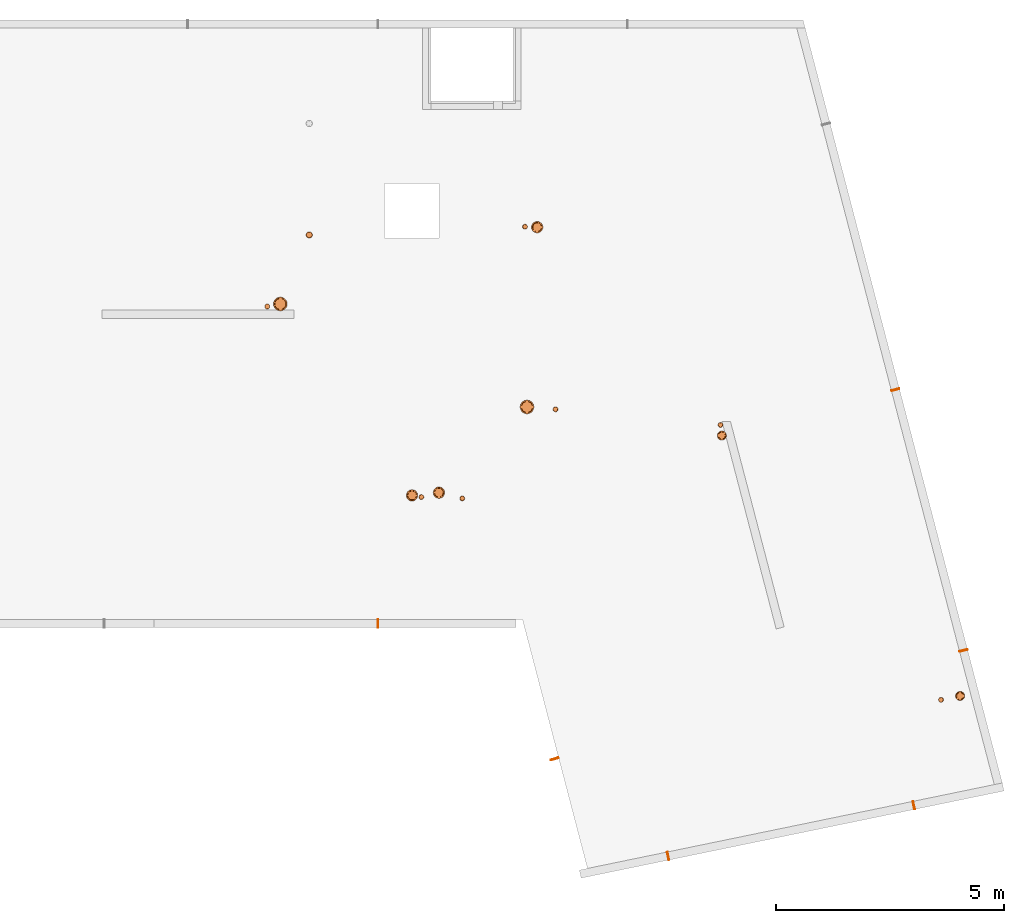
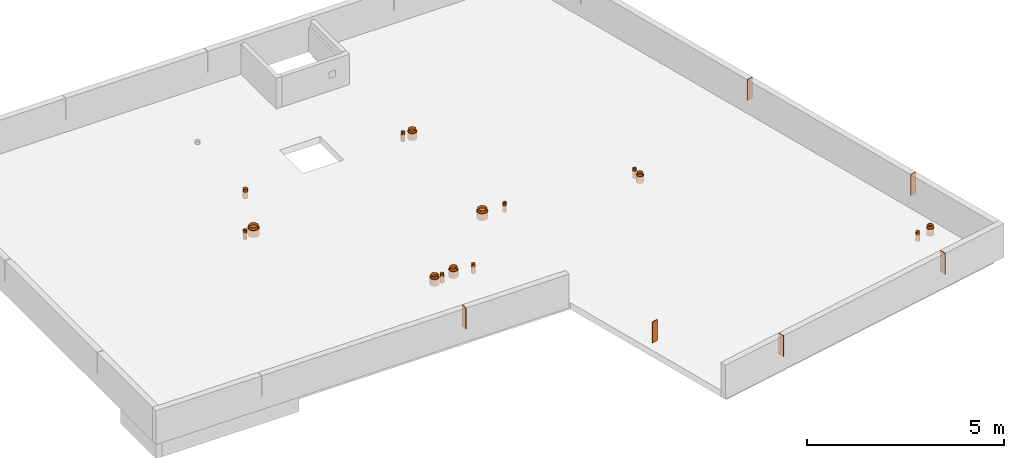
# One storey, part 11 of 12: 21 proxies.
"""IFC2X3 building model written with IfcOpenShell, lengths in centimetres."""

from ifc_helpers import new_model, entity, si_unit, converted_unit, derived_unit, direction, frame, frame_2d, origin, place, context, subcontext, project, spatial, rectangle, circle, hollow_circle, extrude, source, transform, mapped, material, type_object, type_shapes, element, save


model = new_model("IFC2X3")

# Units and contexts
model_context = context("Model", 3, precision=0.001, world=origin(), true_north=direction((6.12303176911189e-17, 1.0)))
body_context = subcontext(model_context, "Body", "Model", "MODEL_VIEW")
ifc_project = project(units=[si_unit("LENGTHUNIT", "METRE", prefix="CENTI"), si_unit("AREAUNIT", "SQUARE_METRE"), si_unit("VOLUMEUNIT", "CUBIC_METRE"), converted_unit("PLANEANGLEUNIT", "DEGREE", entity("IfcRatioMeasure", 0.0174532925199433), si_unit("PLANEANGLEUNIT", "RADIAN"), dimensions=[0, 0, 0, 0, 0, 0, 0]), si_unit("MASSUNIT", "GRAM", prefix="KILO"), derived_unit("MASSDENSITYUNIT", [(si_unit("MASSUNIT", "GRAM", prefix="KILO"), 1), (si_unit("LENGTHUNIT", "METRE"), -3)]), si_unit("TIMEUNIT", "SECOND"), si_unit("FREQUENCYUNIT", "HERTZ"), si_unit("THERMODYNAMICTEMPERATUREUNIT", "DEGREE_CELSIUS"), derived_unit("THERMALTRANSMITTANCEUNIT", [(si_unit("MASSUNIT", "GRAM", prefix="KILO"), 1), (si_unit("THERMODYNAMICTEMPERATUREUNIT", "KELVIN"), -1), (si_unit("TIMEUNIT", "SECOND"), -3)]), derived_unit("VOLUMETRICFLOWRATEUNIT", [(si_unit("LENGTHUNIT", "METRE"), 3), (si_unit("TIMEUNIT", "SECOND"), -1)]), si_unit("ELECTRICCURRENTUNIT", "AMPERE"), si_unit("ELECTRICVOLTAGEUNIT", "VOLT"), si_unit("POWERUNIT", "WATT"), si_unit("FORCEUNIT", "NEWTON"), si_unit("ILLUMINANCEUNIT", "LUX"), si_unit("LUMINOUSFLUXUNIT", "LUMEN"), si_unit("LUMINOUSINTENSITYUNIT", "CANDELA"), derived_unit("USERDEFINED", [(si_unit("MASSUNIT", "GRAM", prefix="KILO"), -1), (si_unit("LENGTHUNIT", "METRE"), -2), (si_unit("TIMEUNIT", "SECOND"), 3), (si_unit("LUMINOUSFLUXUNIT", "LUMEN"), 1)]), derived_unit("LINEARVELOCITYUNIT", [(si_unit("LENGTHUNIT", "METRE"), 1), (si_unit("TIMEUNIT", "SECOND"), -1)]), si_unit("PRESSUREUNIT", "PASCAL"), derived_unit("USERDEFINED", [(si_unit("LENGTHUNIT", "METRE"), -2), (si_unit("MASSUNIT", "GRAM", prefix="KILO"), 1), (si_unit("TIMEUNIT", "SECOND"), -2)])], contexts=[model_context])

# Site, building, storey
site_placement = place(None, origin())
site = spatial("IfcSite", under=ifc_project, at=site_placement, Name="Default", CompositionType="ELEMENT")
building_placement = place(site_placement, origin())
building = spatial("IfcBuilding", under=site, at=building_placement, Name="CAGE 03", CompositionType="ELEMENT")
storey_placement = place(building_placement, frame((0.0, 0.0, 1690.0)))
storey = spatial("IfcBuildingStorey", under=building, at=storey_placement, Name="R+6", CompositionType="ELEMENT", Elevation=1690.0)

# Proxies
ifc_material_1 = material(Name="BBGO_Résa")
building_element_proxy_type_1 = type_object("IfcBuildingElementProxyType", Name="J.F.", PredefinedType="NOTDEFINED", material=ifc_material_1)
shared_shape_1 = source(origin(), body_context, "Body", "SweptSolid", [
    extrude(rectangle(XDim=18.0, YDim=2.00000000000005, at=frame_2d((-1.78701498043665e-12, 1.87627691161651e-14), x_axis=(1.0, 0.0))), frame((11328.7595501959, 4318.08999948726, 1730.0), z_axis=(0.0, 0.0, 1.0), x_axis=(0.967549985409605, 0.252679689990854, 0.0)), (0.0, 0.0, 1.0), 64.9999999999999),
])
type_shapes(building_element_proxy_type_1, [shared_shape_1])
proxy_1_placement = place(storey_placement, frame((0.0, 0.0, -1690.0)))
element("IfcBuildingElementProxy", 1, at=proxy_1_placement, inside=storey, type_object=building_element_proxy_type_1, material=ifc_material_1, Name="BBGO-Résa rect et circ:J.F.", ObjectType="J.F.", context=body_context, shape_type="MappedRepresentation", body=[
    mapped(shared_shape_1, transform((0.0, 0.0, 0.0), scale=1.0)),
])
building_element_proxy_type_2 = type_object("IfcBuildingElementProxyType", Name="J.F.", PredefinedType="NOTDEFINED", material=ifc_material_1)
shared_shape_2 = source(origin(), body_context, "Body", "SweptSolid", [
    extrude(rectangle(XDim=18.0000000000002, YDim=2.00000000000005, at=frame_2d((1.62181379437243e-12, -6.47204512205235e-13), x_axis=(1.0, 0.0))), frame((11478.0932469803, 3746.26795811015, 1730.0), z_axis=(0.0, 0.0, 1.0), x_axis=(0.967549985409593, 0.252679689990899, 0.0)), (0.0, 0.0, 1.0), 64.9999999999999),
])
type_shapes(building_element_proxy_type_2, [shared_shape_2])
proxy_2_placement = place(storey_placement, frame((0.0, 0.0, -1690.0)))
element("IfcBuildingElementProxy", 2, at=proxy_2_placement, inside=storey, type_object=building_element_proxy_type_2, material=ifc_material_1, Name="BBGO-Résa rect et circ:J.F.", ObjectType="J.F.", context=body_context, shape_type="MappedRepresentation", body=[
    mapped(shared_shape_2, transform((0.0, 0.0, 0.0), scale=1.0)),
])
building_element_proxy_type_3 = type_object("IfcBuildingElementProxyType", Name="J.F.", PredefinedType="NOTDEFINED", material=ifc_material_1)
shared_shape_3 = source(origin(), body_context, "Body", "SweptSolid", [
    extrude(rectangle(XDim=18.0000000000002, YDim=1.99999999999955, at=frame_2d((-2.16715534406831e-13, 0.0), x_axis=(1.0, 0.0))), frame((10194.3658201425, 3805.66066607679, 1730.0), z_axis=(0.0, 0.0, 1.0), x_axis=(0.0, 1.0, 0.0)), (0.0, 0.0, 1.0), 64.9999999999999),
])
type_shapes(building_element_proxy_type_3, [shared_shape_3])
proxy_3_placement = place(storey_placement, frame((0.0, 0.0, -1690.0)))
element("IfcBuildingElementProxy", 3, at=proxy_3_placement, inside=storey, type_object=building_element_proxy_type_3, material=ifc_material_1, Name="BBGO-Résa rect et circ:J.F.", ObjectType="J.F.", context=body_context, shape_type="MappedRepresentation", body=[
    mapped(shared_shape_3, transform((0.0, 0.0, 0.0), scale=1.0)),
])
building_element_proxy_type_4 = type_object("IfcBuildingElementProxyType", Name="J.F.", PredefinedType="NOTDEFINED", material=ifc_material_1)
shared_shape_4 = source(origin(), body_context, "Body", "SweptSolid", [
    extrude(rectangle(XDim=18.0000000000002, YDim=2.00000000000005, at=frame_2d((5.41788836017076e-14, 2.09332551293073e-13), x_axis=(1.0, 0.0))), frame((10581.5750144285, 3508.52112069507, 1730.0), z_axis=(0.0, 0.0, 1.0), x_axis=(0.967549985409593, 0.252679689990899, 0.0)), (0.0, 0.0, 1.0), 64.9999999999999),
])
type_shapes(building_element_proxy_type_4, [shared_shape_4])
proxy_4_placement = place(storey_placement, frame((0.0, 0.0, -1690.0)))
element("IfcBuildingElementProxy", 4, at=proxy_4_placement, inside=storey, type_object=building_element_proxy_type_4, material=ifc_material_1, Name="BBGO-Résa rect et circ:J.F.", ObjectType="J.F.", context=body_context, shape_type="MappedRepresentation", body=[
    mapped(shared_shape_4, transform((0.0, 0.0, 0.0), scale=1.0)),
])
building_element_proxy_type_5 = type_object("IfcBuildingElementProxyType", Name="J.F.", PredefinedType="NOTDEFINED", material=ifc_material_1)
shared_shape_5 = source(origin(), body_context, "Body", "SweptSolid", [
    extrude(rectangle(XDim=18.0000000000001, YDim=1.9999999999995, at=frame_2d((-1.74971148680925e-13, -8.48487946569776e-13), x_axis=(1.0, 0.0))), frame((10830.4849742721, 3295.67811920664, 1730.0), z_axis=(0.0, 0.0, 1.0), x_axis=(-0.201861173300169, 0.979414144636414, 0.0)), (0.0, 0.0, 1.0), 64.9999999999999),
])
type_shapes(building_element_proxy_type_5, [shared_shape_5])
proxy_5_placement = place(storey_placement, frame((0.0, 0.0, -1690.0)))
element("IfcBuildingElementProxy", 5, at=proxy_5_placement, inside=storey, type_object=building_element_proxy_type_5, material=ifc_material_1, Name="BBGO-Résa rect et circ:J.F.", ObjectType="J.F.", context=body_context, shape_type="MappedRepresentation", body=[
    mapped(shared_shape_5, transform((0.0, 0.0, 0.0), scale=1.0)),
])
building_element_proxy_type_6 = type_object("IfcBuildingElementProxyType", Name="J.F.", PredefinedType="NOTDEFINED", material=ifc_material_1)
shared_shape_6 = source(origin(), body_context, "Body", "SweptSolid", [
    extrude(rectangle(XDim=18.0000000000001, YDim=1.9999999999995, at=frame_2d((-1.74971148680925e-13, -8.48487946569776e-13), x_axis=(1.0, 0.0))), frame((11369.1627538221, 3406.70176452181, 1730.0), z_axis=(0.0, 0.0, 1.0), x_axis=(-0.201861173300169, 0.979414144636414, 0.0)), (0.0, 0.0, 1.0), 64.9999999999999),
])
type_shapes(building_element_proxy_type_6, [shared_shape_6])
proxy_6_placement = place(storey_placement, frame((0.0, 0.0, -1690.0)))
element("IfcBuildingElementProxy", 6, at=proxy_6_placement, inside=storey, type_object=building_element_proxy_type_6, material=ifc_material_1, Name="BBGO-Résa rect et circ:J.F.", ObjectType="J.F.", context=body_context, shape_type="MappedRepresentation", body=[
    mapped(shared_shape_6, transform((0.0, 0.0, 0.0), scale=1.0)),
])
ifc_material_2 = material(Name="Conduit EP")
building_element_proxy_type_7 = type_object("IfcBuildingElementProxyType", Name="EP 126", PredefinedType="NOTDEFINED", material=ifc_material_2)
shared_shape_7 = source(origin(), body_context, "Body", "SweptSolid", [
    extrude(circle(Radius=7.0, at=frame_2d((0.0, -1.13088120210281e-14), x_axis=(1.0, 0.0))), frame((0.0, 0.0, -21.0)), (0.0, 0.0, 1.0), 21.0),
    extrude(hollow_circle(Radius=6.25, WallThickness=0.25, at=frame_2d((0.0, -1.00971535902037e-14), x_axis=(1.0, 0.0))), frame((0.0, 0.0, -21.0)), (0.0, 0.0, 1.0), 28.5),
])
type_shapes(building_element_proxy_type_7, [shared_shape_7])
proxy_7_placement = place(storey_placement, frame((10043.5548418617, 4657.41074661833, 0.0)))
element("IfcBuildingElementProxy", 7, at=proxy_7_placement, inside=storey, type_object=building_element_proxy_type_7, material=ifc_material_2, Name="Galette - Résa - PVC5:EP 126", ObjectType="EP 126", context=body_context, shape_type="MappedRepresentation", body=[
    mapped(shared_shape_7, transform((0.0, 0.0, 0.0), scale=1.0)),
])
ifc_material_3 = material(Name="Conduit EU")
building_element_proxy_type_8 = type_object("IfcBuildingElementProxyType", Name="CFO125 P110", PredefinedType="NOTDEFINED", material=ifc_material_3)
shared_shape_8 = source(origin(), body_context, "Body", "SweptSolid", [
    extrude(circle(Radius=5.5, at=frame_2d((0.0, -8.88549515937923e-15), x_axis=(1.0, 0.0))), frame((0.0, 0.0, -21.0)), (0.0, 0.0, 1.0), 21.0),
    extrude(hollow_circle(Radius=5.0, WallThickness=0.25, at=frame_2d((0.0, -8.07772287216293e-15), x_axis=(1.0, 0.0))), frame((0.0, 0.0, -21.0)), (0.0, 0.0, 1.0), 28.5),
])
type_shapes(building_element_proxy_type_8, [shared_shape_8])
proxy_8_placement = place(storey_placement, frame((11428.9637022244, 3638.21161603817, 0.0), z_axis=(0.0, 0.0, 1.0), x_axis=(0.96754998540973, 0.252679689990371, 0.0)))
element("IfcBuildingElementProxy", 8, at=proxy_8_placement, inside=storey, type_object=building_element_proxy_type_8, material=ifc_material_3, Name="Galette - Résa - PVC5:CFO125 P110", ObjectType="CFO125 P110", context=body_context, shape_type="MappedRepresentation", body=[
    mapped(shared_shape_8, transform((0.0, 0.0, 0.0), scale=1.0)),
])
for number, where, name in (
    (9, (10516.3610475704, 4675.41484953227, 0.0), "Galette - Résa - PVC5:CFO125 P110"),
    (10, (10583.5881388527, 4274.95220023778, 0.0), "Galette - Résa - PVC5:CFO125 P110"),
    (11, (10945.298179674, 4240.82138926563, 0.0), "Galette - Résa - PVC5:CFO125 P110"),
    (12, (10289.3612124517, 4082.5325407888, 0.0), "Galette - Résa - PVC5:CFO125 P110"),
    (13, (10379.0663407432, 4079.92265572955, 0.0), "Galette - Résa - PVC5:CFO125 P110"),
    (14, (9951.51198540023, 4500.43298935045, 0.0), "Galette - Résa - PVC5:CFO125 P110"),
):
    element("IfcBuildingElementProxy", number, at=place(storey_placement, frame(where)), inside=storey, type_object=building_element_proxy_type_8, material=ifc_material_3, Name=name, ObjectType="CFO125 P110", context=body_context, shape_type="MappedRepresentation", body=[
        mapped(shared_shape_8, transform((0.0, 0.0, 0.0), scale=1.0)),
    ])
ifc_material_4 = material(Name="Conduit VMC")
building_element_proxy_type_9 = type_object("IfcBuildingElementProxyType", Name="CFO200 P170", PredefinedType="NOTDEFINED", material=ifc_material_4)
shared_shape_9 = source(origin(), body_context, "Body", "SweptSolid", [
    extrude(circle(Radius=10.0, at=frame_2d((0.0, -1.61554457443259e-14), x_axis=(1.0, 0.0))), frame((0.0, 0.0, -21.0)), (0.0, 0.0, 1.0), 21.0),
    extrude(hollow_circle(Radius=8.0, WallThickness=0.500000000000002, at=frame_2d((0.0, -1.29243565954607e-14), x_axis=(1.0, 0.0))), frame((0.0, 0.0, -21.0)), (0.0, 0.0, 1.0), 28.5),
])
type_shapes(building_element_proxy_type_9, [shared_shape_9])
proxy_9_placement = place(storey_placement, frame((11470.6360049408, 3646.5871587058, 0.0), z_axis=(0.0, 0.0, 1.0), x_axis=(0.96754998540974, 0.252679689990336, 0.0)))
element("IfcBuildingElementProxy", 15, at=proxy_9_placement, inside=storey, type_object=building_element_proxy_type_9, material=ifc_material_4, Name="Galette - Résa - PVC5:CFO200 P170", ObjectType="CFO200 P170", context=body_context, shape_type="MappedRepresentation", body=[
    mapped(shared_shape_9, transform((0.0, 0.0, 0.0), scale=1.0)),
])
proxy_10_placement = place(storey_placement, frame((10948.2981796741, 4217.53269131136, 0.0)))
element("IfcBuildingElementProxy", 16, at=proxy_10_placement, inside=storey, type_object=building_element_proxy_type_9, material=ifc_material_4, Name="Galette - Résa - PVC5:CFO200 P170", ObjectType="CFO200 P170", context=body_context, shape_type="MappedRepresentation", body=[
    mapped(shared_shape_9, transform((0.0, 0.0, 0.0), scale=1.0)),
])
building_element_proxy_type_10 = type_object("IfcBuildingElementProxyType", Name="CFO235 P210", PredefinedType="NOTDEFINED", material=ifc_material_4)
shared_shape_10 = source(origin(), body_context, "Body", "SweptSolid", [
    extrude(circle(Radius=12.5, at=frame_2d((0.0, -2.01943071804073e-14), x_axis=(1.0, 0.0))), frame((0.0, 0.0, -21.0)), (0.0, 0.0, 1.0), 21.0),
    extrude(hollow_circle(Radius=10.0, WallThickness=0.5, at=frame_2d((0.0, -1.61554457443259e-14), x_axis=(1.0, 0.0))), frame((0.0, 0.0, -21.0)), (0.0, 0.0, 1.0), 28.5),
])
type_shapes(building_element_proxy_type_10, [shared_shape_10])
for number, where, name in (
    (17, (10543.3017682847, 4674.40997606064, 0.0), "Galette - Résa - PVC5:CFO235 P210"),
    (18, (10327.9230662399, 4092.36946065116, 0.0), "Galette - Résa - PVC5:CFO235 P210"),
    (19, (10268.9349519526, 4086.28265819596, 0.0), "Galette - Résa - PVC5:CFO235 P210"),
):
    element("IfcBuildingElementProxy", number, at=place(storey_placement, frame(where)), inside=storey, type_object=building_element_proxy_type_10, material=ifc_material_4, Name=name, ObjectType="CFO235 P210", context=body_context, shape_type="MappedRepresentation", body=[
        mapped(shared_shape_10, transform((0.0, 0.0, 0.0), scale=1.0)),
    ])
building_element_proxy_type_11 = type_object("IfcBuildingElementProxyType", Name="CFO285 P260", PredefinedType="NOTDEFINED", material=ifc_material_4)
shared_shape_11 = source(origin(), body_context, "Body", "SweptSolid", [
    extrude(circle(Radius=15.0, at=frame_2d((0.0, -2.42331686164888e-14), x_axis=(1.0, 0.0))), frame((0.0, 0.0, -21.0)), (0.0, 0.0, 1.0), 21.0),
    extrude(hollow_circle(Radius=12.5, WallThickness=0.499999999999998, at=frame_2d((0.0, -2.01943071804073e-14), x_axis=(1.0, 0.0))), frame((0.0, 0.0, -21.0)), (0.0, 0.0, 1.0), 28.5),
])
type_shapes(building_element_proxy_type_11, [shared_shape_11])
for number, where, name in (
    (20, (10521.0266728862, 4280.19633996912, 0.0), "Galette - Résa - PVC5:CFO285 P260"),
    (21, (9980.14441648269, 4505.98818311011, 0.0), "Galette - Résa - PVC5:CFO285 P260"),
):
    element("IfcBuildingElementProxy", number, at=place(storey_placement, frame(where)), inside=storey, type_object=building_element_proxy_type_11, material=ifc_material_4, Name=name, ObjectType="CFO285 P260", context=body_context, shape_type="MappedRepresentation", body=[
        mapped(shared_shape_11, transform((0.0, 0.0, 0.0), scale=1.0)),
    ])

save(model, "model.ifc")
